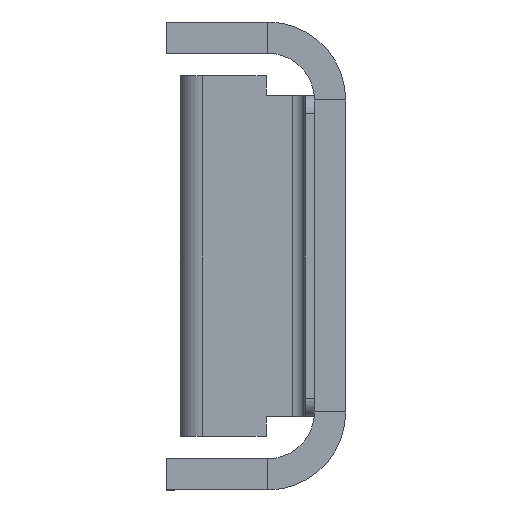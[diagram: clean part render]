
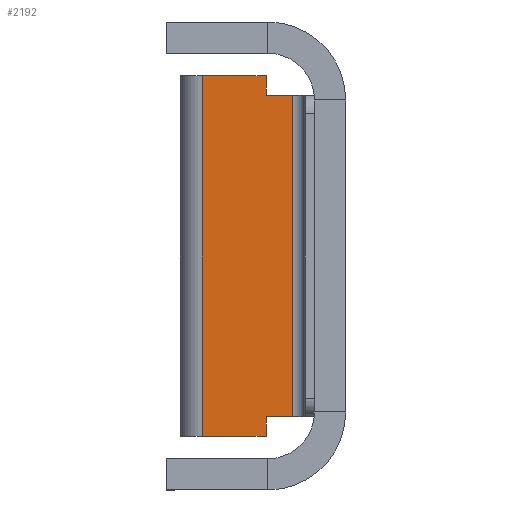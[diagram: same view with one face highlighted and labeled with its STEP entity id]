
A CAD part, left-side view. The second image highlights one B-rep face of the part: STEP entity #2192.
In plain terms, the highlighted planar face has unit normal (-1, 0, 0).
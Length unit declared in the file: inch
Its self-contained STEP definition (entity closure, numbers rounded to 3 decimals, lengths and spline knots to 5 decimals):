
#43 = CARTESIAN_POINT ( 'NONE',  ( -5.095, 0.46, -0.578 ) ) ;
#94 = DIRECTION ( 'NONE',  ( 0., -1., 0. ) ) ;
#97 = VECTOR ( 'NONE', #2403, 39.37008 ) ;
#164 = DIRECTION ( 'NONE',  ( 0., 1., 0. ) ) ;
#189 = DIRECTION ( 'NONE',  ( 0., 0., -1. ) ) ;
#279 = ORIENTED_EDGE ( 'NONE', *, *, #1452, .T. ) ;
#289 = CARTESIAN_POINT ( 'NONE',  ( -5.095, 0.13, -0.5155 ) ) ;
#348 = VECTOR ( 'NONE', #1321, 39.37008 ) ;
#387 = CARTESIAN_POINT ( 'NONE',  ( -5.095, 0.255, -0.578 ) ) ;
#451 = ORIENTED_EDGE ( 'NONE', *, *, #1752, .T. ) ;
#537 = EDGE_CURVE ( 'NONE', #1484, #1125, #1364, .T. ) ;
#584 = CARTESIAN_POINT ( 'NONE',  ( -5.095, 0.17, 0.5155 ) ) ;
#655 = LINE ( 'NONE', #2412, #348 ) ;
#668 = EDGE_CURVE ( 'NONE', #1484, #2094, #2245, .T. ) ;
#678 = ORIENTED_EDGE ( 'NONE', *, *, #1210, .T. ) ;
#777 = VERTEX_POINT ( 'NONE', #2351 ) ;
#809 = VERTEX_POINT ( 'NONE', #2126 ) ;
#812 = ORIENTED_EDGE ( 'NONE', *, *, #2142, .F. ) ;
#813 = CARTESIAN_POINT ( 'NONE',  ( -5.095, 0.255, -0.5155 ) ) ;
#822 = ORIENTED_EDGE ( 'NONE', *, *, #1426, .T. ) ;
#905 = EDGE_CURVE ( 'NONE', #809, #777, #1536, .T. ) ;
#949 = CARTESIAN_POINT ( 'NONE',  ( -5.095, 0.5, -0.578 ) ) ;
#1008 = CARTESIAN_POINT ( 'NONE',  ( -5.095, 0.255, 0.578 ) ) ;
#1125 = VERTEX_POINT ( 'NONE', #2199 ) ;
#1126 = LINE ( 'NONE', #1276, #97 ) ;
#1204 = VECTOR ( 'NONE', #189, 39.37008 ) ;
#1210 = EDGE_CURVE ( 'NONE', #2125, #1753, #1247, .T. ) ;
#1235 = FACE_OUTER_BOUND ( 'NONE', #2337, .T. ) ;
#1247 = LINE ( 'NONE', #1664, #2453 ) ;
#1272 = DIRECTION ( 'NONE',  ( 0., 0., 1. ) ) ;
#1276 = CARTESIAN_POINT ( 'NONE',  ( -5.095, 0.5, 0.578 ) ) ;
#1321 = DIRECTION ( 'NONE',  ( 0., 1., 0. ) ) ;
#1364 = LINE ( 'NONE', #43, #1745 ) ;
#1401 = DIRECTION ( 'NONE',  ( 0., 0., 1. ) ) ;
#1426 = EDGE_CURVE ( 'NONE', #1753, #1125, #1126, .T. ) ;
#1452 = EDGE_CURVE ( 'NONE', #2432, #2125, #655, .T. ) ;
#1484 = VERTEX_POINT ( 'NONE', #1687 ) ;
#1486 = PLANE ( 'NONE',  #2227 ) ;
#1536 = LINE ( 'NONE', #289, #1836 ) ;
#1588 = LINE ( 'NONE', #2268, #1204 ) ;
#1617 = CARTESIAN_POINT ( 'NONE',  ( -5.095, 0.255, -0.578 ) ) ;
#1632 = ORIENTED_EDGE ( 'NONE', *, *, #668, .T. ) ;
#1664 = CARTESIAN_POINT ( 'NONE',  ( -5.095, 0.255, 0.5155 ) ) ;
#1687 = CARTESIAN_POINT ( 'NONE',  ( -5.095, 0.46, -0.578 ) ) ;
#1717 = ORIENTED_EDGE ( 'NONE', *, *, #905, .T. ) ;
#1745 = VECTOR ( 'NONE', #1973, 39.37008 ) ;
#1752 = EDGE_CURVE ( 'NONE', #2094, #809, #2386, .T. ) ;
#1753 = VERTEX_POINT ( 'NONE', #1008 ) ;
#1836 = VECTOR ( 'NONE', #94, 39.37008 ) ;
#1883 = VECTOR ( 'NONE', #1401, 39.37008 ) ;
#1973 = DIRECTION ( 'NONE',  ( 0., 0., 1. ) ) ;
#2000 = DIRECTION ( 'NONE',  ( 0., -1., 0. ) ) ;
#2046 = CARTESIAN_POINT ( 'NONE',  ( -5.095, 0.255, 0.5155 ) ) ;
#2094 = VERTEX_POINT ( 'NONE', #387 ) ;
#2125 = VERTEX_POINT ( 'NONE', #2046 ) ;
#2126 = CARTESIAN_POINT ( 'NONE',  ( -5.095, 0.255, -0.5155 ) ) ;
#2142 = EDGE_CURVE ( 'NONE', #2432, #777, #1588, .T. ) ;
#2192 = ADVANCED_FACE ( 'NONE', ( #1235 ), #1486, .F. ) ;
#2199 = CARTESIAN_POINT ( 'NONE',  ( -5.095, 0.46, 0.578 ) ) ;
#2227 = AXIS2_PLACEMENT_3D ( 'NONE', #949, #2443, #164 ) ;
#2245 = LINE ( 'NONE', #1617, #2425 ) ;
#2268 = CARTESIAN_POINT ( 'NONE',  ( -5.095, 0.17, 0.5155 ) ) ;
#2337 = EDGE_LOOP ( 'NONE', ( #812, #279, #678, #822, #2366, #1632, #451, #1717 ) ) ;
#2351 = CARTESIAN_POINT ( 'NONE',  ( -5.095, 0.17, -0.5155 ) ) ;
#2366 = ORIENTED_EDGE ( 'NONE', *, *, #537, .F. ) ;
#2386 = LINE ( 'NONE', #813, #1883 ) ;
#2403 = DIRECTION ( 'NONE',  ( 0., 1., 0. ) ) ;
#2412 = CARTESIAN_POINT ( 'NONE',  ( -5.095, 0.13, 0.5155 ) ) ;
#2425 = VECTOR ( 'NONE', #2000, 39.37008 ) ;
#2432 = VERTEX_POINT ( 'NONE', #584 ) ;
#2443 = DIRECTION ( 'NONE',  ( 1., 0., 0. ) ) ;
#2453 = VECTOR ( 'NONE', #1272, 39.37008 ) ;
